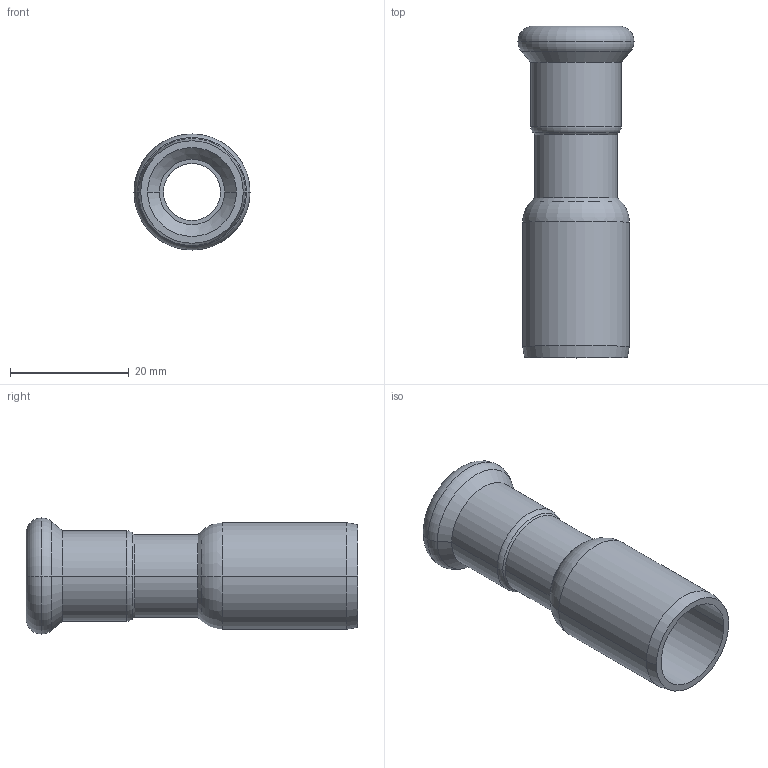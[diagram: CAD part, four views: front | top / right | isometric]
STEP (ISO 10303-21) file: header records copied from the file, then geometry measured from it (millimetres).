
FILE_DESCRIPTION(('CoCreate Modeling STEP Export'),'2;1');
FILE_NAME('C1407 12x18.stp','2014-11-07T14:26:28',(''),(''),'CoCreate Modeling STEP processor for AP214 (Solid Model)','CoCreate Modeling 17.00A 17-Jun-2010 (C) Parametric Technology GmbH','');
FILE_SCHEMA(('AUTOMOTIVE_DESIGN { 1 0 10303 214 1 1 1 1 }'));
Length unit declared in the file: millimetre
Products named in the file (2): C1407_12x18
Assembly tree (1 placements, depth 2):
  C1407_12x18
    C1407_12x18
Bounding box: 19.6 x 56 x 19.6 mm (x, y, z)
Volume: 4423.7 mm3; surface area: 5623 mm2
Topology: 1 solids, 1 shells, 39 faces, 79 edges, 45 vertices
Faces by surface type: cylinder 16, cone 10, torus 8, plane 5
Entity records: 866 total; most frequent: ORIENTED_EDGE 158, DIRECTION 132, CARTESIAN_POINT 124, EDGE_CURVE 79, AXIS2_PLACEMENT_3D 53, VERTEX_POINT 45, EDGE_LOOP 44, FACE_OUTER_BOUND 39
